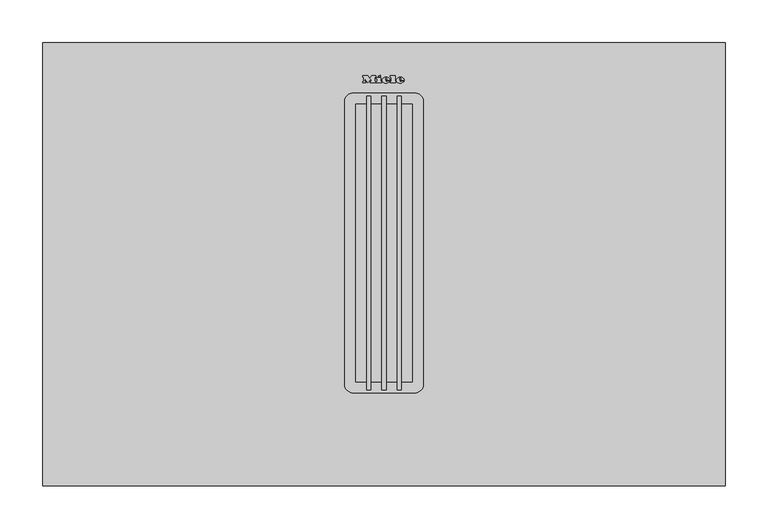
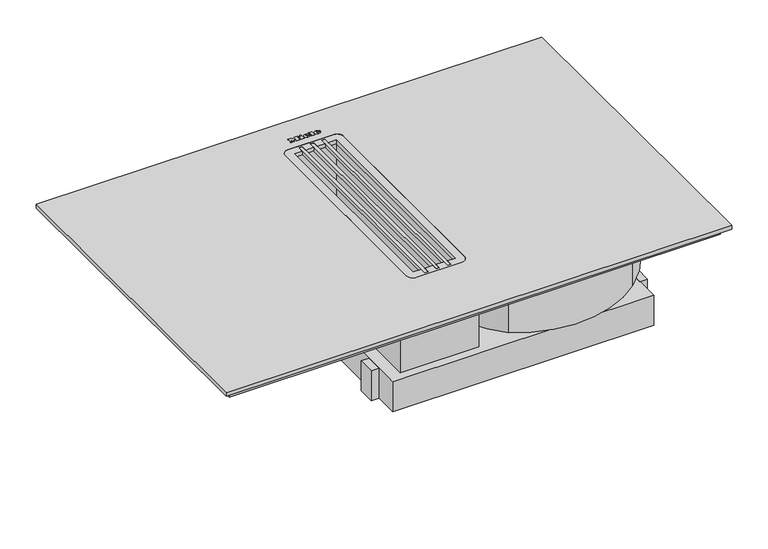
"""IFC4 building model written with IfcOpenShell, lengths in millimetres: proxy geometry, 11798830_ROK_KMDA7476FL : 26747672_ROK_11798830_KMDA7476FL."""

from ifc_helpers import new_model, si_unit, point, frame, frame_2d, origin, origin_with_axes, place, context, project, spatial, polyline, circle_curve, ellipse_curve, trimmed, segment, composite_curve, outline, extrude, faceted_brep, source, transform, mapped, element, save
from ifc_brep_helpers import plane_surface, cylinder_surface, revolved_surface, extruded_surface, advanced_brep


def specialty_equipment_0ed3b5a2(model_context):
    return source(origin(), model_context, "Body", "SolidModel", [
        extrude(outline(polyline([(-51.0, 517.0), (2.0, 517.0), (2.0, 498.0), (-51.0, 498.0), (-51.0, 517.0)])), frame((0.0, 0.0, -129.0), z_axis=(0.0, 0.0, 1.0), x_axis=(1.0, 0.0, 0.0)), (0.0, 0.0, 1.0), 94.0),
        faceted_brep([(-62.0, 462.0, -47.0), (-62.0, 462.0, -141.0), (128.0, 462.0, -141.0), (128.0, 462.0, -47.0), (128.0, 498.0, -47.0), (128.0, 498.0, -141.0), (-62.0, 498.0, -141.0), (-62.0, 498.0, -47.0), (-151.0, 498.0, -47.0), (-151.0, 498.0, -12.0), (151.0, 498.0, -12.0), (151.0, 498.0, -47.0), (128.0, 471.0, -47.0), (-62.0, 471.0, -47.0), (-151.0, 471.0, -12.0), (-151.0, 471.0, -47.0), (151.0, 471.0, -47.0), (151.0, 471.0, -12.0)], [[[0, 1, 2, 3]], [[4, 5, 6, 7, 8, 9, 10, 11]], [[0, 3, 12, 13]], [[3, 2, 5, 4, 12]], [[2, 1, 6, 5]], [[1, 0, 13, 7, 6]], [[14, 15, 13, 12, 16, 17]], [[14, 17, 10, 9]], [[17, 16, 11, 10]], [[11, 16, 12, 4]], [[15, 8, 7, 13]], [[15, 14, 9, 8]]]),
        extrude(outline(polyline([(388.5, 508.5), (388.5, 11.5), (-388.5, 11.5), (-388.5, 508.5), (388.5, 508.5)]), holes=[composite_curve([segment(polyline([(36.0, 461.0), (-36.0, 461.0)]), True, "CONTINUOUS"), segment(trimmed(circle_curve(frame_2d((-36.0, 451.0)), 10.0), [point((-36.0, 461.0))], [point((-46.0, 451.0))], True, "CARTESIAN"), True, "CONTINUOUS"), segment(polyline([(-46.0, 451.0), (-46.0, 119.0)]), True, "CONTINUOUS"), segment(trimmed(circle_curve(frame_2d((-36.0, 119.0)), 10.0), [point((-46.0, 119.0))], [point((-36.0, 109.0))], True, "CARTESIAN"), True, "CONTINUOUS"), segment(polyline([(-36.0, 109.0), (36.0, 109.0)]), True, "CONTINUOUS"), segment(trimmed(circle_curve(frame_2d((36.0, 119.0)), 10.0), [point((36.0, 109.0))], [point((46.0, 119.0))], True, "CARTESIAN"), True, "CONTINUOUS"), segment(polyline([(46.0, 119.0), (46.0, 451.0)]), True, "CONTINUOUS"), segment(trimmed(circle_curve(frame_2d((36.0, 451.0)), 10.0), [point((46.0, 451.0))], [point((36.0, 461.0))], True, "CARTESIAN"), True, "CONTINUOUS")], self_intersect=False)]), frame((0.0, 0.0, -12.0), z_axis=(0.0, 0.0, 1.0), x_axis=(1.0, 0.0, 0.0)), (0.0, 0.0, 1.0), 12.0),
        extrude(outline(polyline([(62.0, 462.0), (62.0, 108.0), (-62.0, 108.0), (-62.0, 462.0), (62.0, 462.0)]), holes=[polyline([(-61.0, 461.0), (-61.0, 109.0), (61.0, 109.0), (61.0, 461.0), (-61.0, 461.0)])]), frame((0.0, 0.0, -144.0), z_axis=(0.0, 0.0, 1.0), x_axis=(1.0, 0.0, 0.0)), (0.0, 0.0, 1.0), 132.0),
        extrude(outline(polyline([(-115.0, 470.0), (-115.0, 442.0), (-75.0, 442.0), (-75.0, 192.0), (-115.0, 192.0), (-115.0, 99.0), (-343.0, 99.0), (-343.0, 470.0), (-115.0, 470.0)])), frame((0.0, 0.0, -44.5), z_axis=(0.0, 0.0, 1.0), x_axis=(1.0, 0.0, 0.0)), (0.0, 0.0, 1.0), 32.5),
        extrude(outline(polyline([(343.0, 470.0), (343.0, 99.0), (115.0, 99.0), (115.0, 470.0), (343.0, 470.0)])), frame((0.0, 0.0, -44.5), z_axis=(0.0, 0.0, 1.0), x_axis=(1.0, 0.0, 0.0)), (0.0, 0.0, 1.0), 32.5),
        extrude(outline(polyline([(-25.1017526, 510.2687484), (-25.1017526, 511.5249913), (-17.8845239, 511.5249913), (-17.8845239, 501.4750087), (-25.1017526, 501.4750087), (-25.1017526, 502.7446501), (-19.1382229, 502.7446501), (-19.1382229, 506.0332257), (-24.7879262, 506.0332257), (-24.7879262, 507.2906905), (-19.1382229, 507.2906905), (-19.1382229, 510.2687484), (-25.1017526, 510.2687484)])), frame((0.0, 0.0, -160.0), z_axis=(0.0, 0.0, 1.0), x_axis=(1.0, 0.0, 0.0)), (0.0, 0.0, 1.0), 1.0),
        extrude(outline(polyline([(-27.1342453, 511.5257742), (-27.1342453, 501.4833659), (-33.4152753, 501.4833659), (-33.4152753, 502.7411815), (-28.4152753, 502.7411815), (-28.4152753, 511.5257742), (-27.1342453, 511.5257742)])), frame((0.0, 0.0, -160.0), z_axis=(0.0, 0.0, 1.0), x_axis=(1.0, 0.0, 0.0)), (0.0, 0.0, 1.0), 1.0),
        extrude(outline(composite_curve([segment(trimmed(circle_curve(frame_2d((-24.5, 506.5)), 7.5), [point((-32.0, 506.5))], [point((-17.0, 506.5))], False, "CARTESIAN"), True, "CONTINUOUS"), segment(trimmed(circle_curve(frame_2d((-24.5, 506.5)), 7.5), [point((-17.0, 506.5))], [point((-32.0, 506.5))], False, "CARTESIAN"), True, "CONTINUOUS")], self_intersect=False)), frame((0.0, 0.0, -159.0), z_axis=(0.0, 0.0, 1.0), x_axis=(1.0, 0.0, 0.0)), (0.0, 0.0, 1.0), 30.0),
        extrude(outline(polyline([(400.0, 520.0), (400.0, 0.0), (-400.0, 0.0), (-400.0, 520.0), (400.0, 520.0)]), holes=[composite_curve([segment(polyline([(36.0, 461.0), (-36.0, 461.0)]), True, "CONTINUOUS"), segment(trimmed(circle_curve(frame_2d((-36.0, 451.0)), 10.0), [point((-36.0, 461.0))], [point((-46.0, 451.0))], True, "CARTESIAN"), True, "CONTINUOUS"), segment(polyline([(-46.0, 451.0), (-46.0, 119.0)]), True, "CONTINUOUS"), segment(trimmed(circle_curve(frame_2d((-36.0, 119.0)), 10.0), [point((-46.0, 119.0))], [point((-36.0, 109.0))], True, "CARTESIAN"), True, "CONTINUOUS"), segment(polyline([(-36.0, 109.0), (36.0, 109.0)]), True, "CONTINUOUS"), segment(trimmed(circle_curve(frame_2d((36.0, 119.0)), 10.0), [point((36.0, 109.0))], [point((46.0, 119.0))], True, "CARTESIAN"), True, "CONTINUOUS"), segment(polyline([(46.0, 119.0), (46.0, 451.0)]), True, "CONTINUOUS"), segment(trimmed(circle_curve(frame_2d((36.0, 451.0)), 10.0), [point((46.0, 451.0))], [point((36.0, 461.0))], True, "CARTESIAN"), True, "CONTINUOUS")], self_intersect=False)]), origin_with_axes(), (0.0, 0.0, 1.0), 6.0),
        extrude(outline(composite_curve([segment(trimmed(circle_curve(frame_2d((196.0, 245.0)), 71.9986338), [point((196.0, 316.9986338))], [point((196.0, 173.0013662))], False, "CARTESIAN"), True, "CONTINUOUS"), segment(trimmed(circle_curve(frame_2d((196.0, 245.0)), 71.9986338), [point((196.0, 173.0013662))], [point((196.0, 316.9986338))], False, "CARTESIAN"), True, "CONTINUOUS")], self_intersect=False)), frame((0.0, 0.0, -74.0), z_axis=(0.0, 0.0, 1.0), x_axis=(1.0, 0.0, 0.0)), (0.0, 0.0, 1.0), 24.0),
        extrude(outline(polyline([(343.0, 159.0), (343.0, 132.0), (331.0, 132.0), (331.0, 159.0), (343.0, 159.0)])), frame((0.0, 0.0, -194.0), z_axis=(0.0, 0.0, 1.0), x_axis=(1.0, 0.0, 0.0)), (0.0, 0.0, 1.0), 50.0),
        extrude(outline(polyline([(343.0, 299.0), (343.0, 272.0), (331.0, 272.0), (331.0, 299.0), (343.0, 299.0)])), frame((0.0, 0.0, -194.0), z_axis=(0.0, 0.0, 1.0), x_axis=(1.0, 0.0, 0.0)), (0.0, 0.0, 1.0), 50.0),
        extrude(outline(polyline([(-94.0, 132.0), (-94.0, 159.0), (-82.0, 159.0), (-82.0, 132.0), (-94.0, 132.0)])), frame((0.0, 0.0, -194.0), z_axis=(0.0, 0.0, 1.0), x_axis=(1.0, 0.0, 0.0)), (0.0, 0.0, 1.0), 50.0),
        extrude(outline(polyline([(-94.0, 412.0), (-94.0, 439.0), (-82.0, 439.0), (-82.0, 412.0), (-94.0, 412.0)])), frame((0.0, 0.0, -194.0), z_axis=(0.0, 0.0, 1.0), x_axis=(1.0, 0.0, 0.0)), (0.0, 0.0, 1.0), 50.0),
        extrude(outline(composite_curve([segment(trimmed(circle_curve(frame_2d((196.0, 245.0)), 72.0), [point((196.0, 317.0))], [point((196.0, 173.0))], False, "CARTESIAN"), True, "CONTINUOUS"), segment(trimmed(circle_curve(frame_2d((196.0, 245.0)), 72.0), [point((196.0, 173.0))], [point((196.0, 317.0))], False, "CARTESIAN"), True, "CONTINUOUS")], self_intersect=False)), frame((0.0, 0.0, -74.0), z_axis=(0.0, 0.0, 1.0), x_axis=(1.0, 0.0, 0.0)), (0.0, 0.0, 1.0), 24.0),
        advanced_brep(
        [(362.0, 410.0, -54.0), (143.0, 410.0, -54.0), (143.0, 358.416101, -54.0), (362.0, 358.416101, -54.0), (362.0, 410.0, -144.0), (362.0, 348.2375968, -144.0), (381.237223, 285.0, -144.0), (318.5220822, 129.2089937, -144.0), (114.432033, 116.6773214, -144.0), (74.0661338, 285.0, -144.0), (143.0, 355.5833055, -144.0), (143.0, 410.0, -144.0), (362.0, 348.2375968, -56.7728261), (74.0661338, 285.0, -74.0), (143.0, 355.5833055, -54.7717096), (358.0, 410.0, -58.5), (146.0, 410.0, -58.5), (146.0, 410.0, -139.5), (358.0, 410.0, -139.5), (136.1334818, 285.0, -74.0), (196.0, 317.0, -65.2825662), (255.8665182, 285.0, -74.0), (381.237223, 285.0, -74.0), (318.5220822, 129.2089937, -74.0), (114.432033, 116.6773214, -74.0), (146.0, 358.416101, -58.5), (358.0, 358.416101, -58.5), (358.0, 358.416101, -139.5), (146.0, 358.416101, -139.5), (196.0, 317.0, -74.0)],
        [
            (0, 1),
            (1, 2),
            (2, 3),
            (3, 0),
            (4, 5),
            (5, 6, circle_curve(frame((204.2850014, 265.7149986, -144.0), z_axis=(0.0, 0.0, -1.0), x_axis=(0.0, -1.0, 0.0)), 178.0)),
            (6, 7, circle_curve(frame((204.2850014, 265.7149986, -144.0), z_axis=(0.0, 0.0, -1.0), x_axis=(0.0, -1.0, 0.0)), 178.0)),
            (7, 8, circle_curve(frame((208.0, 261.0, -144.0), z_axis=(0.0, 0.0, -1.0), x_axis=(0.0, -1.0, 0.0)), 172.0)),
            (8, 9, circle_curve(frame((211.159576, 228.8752699, -144.0), z_axis=(0.0, 0.0, -1.0), x_axis=(0.0, -1.0, 0.0)), 148.1370893)),
            (9, 10, circle_curve(frame((199.9612769, 231.0, -144.0), z_axis=(0.0, 0.0, -1.0), x_axis=(0.0, -1.0, 0.0)), 136.9875435)),
            (10, 11),
            (11, 4),
            (4, 0),
            (3, 12),
            (12, 5),
            (9, 13),
            (13, 14, ellipse_curve(frame((199.9612769, 231.0, -88.7106695), z_axis=(0.0, 0.26284127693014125, -0.9648390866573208), x_axis=(0.0, -0.9648390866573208, -0.26284127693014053)), 141.9796787, 136.9875435)),
            (14, 10),
            (14, 2),
            (1, 11),
            (15, 16),
            (16, 17),
            (17, 18),
            (18, 15),
            (13, 19),
            (19, 20, ellipse_curve(frame((196.0, 245.0, -84.8967922), z_axis=(0.0, 0.26284127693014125, -0.9648390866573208), x_axis=(0.0, -0.9648390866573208, -0.26284127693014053)), 74.6238425, 72.0)),
            (20, 21, ellipse_curve(frame((196.0, 245.0, -84.8967922), z_axis=(0.0, 0.26284127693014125, -0.9648390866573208), x_axis=(0.0, -0.9648390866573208, -0.26284127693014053)), 74.6238425, 72.0)),
            (21, 22),
            (22, 12, ellipse_curve(frame((204.2850014, 265.7149986, -79.2536163), z_axis=(0.0, -0.26284127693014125, 0.9648390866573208), x_axis=(0.0, -0.9648390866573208, -0.26284127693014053)), 184.4867216, 178.0)),
            (7, 23),
            (23, 24, circle_curve(frame((208.0, 261.0, -74.0), z_axis=(0.0, 0.0, -1.0), x_axis=(0.0, -1.0, 0.0)), 172.0)),
            (24, 8),
            (24, 13, circle_curve(frame((211.159576, 228.8752699, -74.0), z_axis=(0.0, 0.0, -1.0), x_axis=(0.0, -1.0, 0.0)), 148.1370893)),
            (6, 22),
            (22, 23, circle_curve(frame((204.2850014, 265.7149986, -74.0), z_axis=(0.0, 0.0, -1.0), x_axis=(0.0, -1.0, 0.0)), 178.0)),
            (25, 26),
            (26, 27),
            (27, 28),
            (28, 25),
            (25, 16),
            (15, 26),
            (18, 27),
            (17, 28),
            (21, 29, circle_curve(frame((196.0, 245.0, -74.0), z_axis=(0.0, 0.0, 1.0), x_axis=(0.0, -1.0, 0.0)), 72.0)),
            (29, 19, circle_curve(frame((196.0, 245.0, -74.0), z_axis=(0.0, 0.0, 1.0), x_axis=(0.0, -1.0, 0.0)), 72.0)),
            (20, 29),
        ],
        [
            plane_surface(frame((362.0, 410.0, -54.0), z_axis=(0.0, 0.0, 1.0), x_axis=(0.0, 1.0, 0.0))),
            plane_surface(frame((362.0, 410.0, -144.0), z_axis=(0.0, 0.0, -1.0), x_axis=(0.0, -1.0, 0.0))),
            plane_surface(frame((362.0, 410.0, -144.0), z_axis=(1.0, 0.0, 0.0), x_axis=(0.0, 0.0, 1.0))),
            cylinder_surface(frame((199.9612769, 231.0, -54.0), z_axis=(0.0, 0.0, -1.0), x_axis=(0.0, -1.0, 0.0)), 136.9875435),
            plane_surface(frame((143.0, 355.5833055, -144.0), z_axis=(-1.0, 0.0, 0.0), x_axis=(0.0, 0.0, 1.0))),
            plane_surface(frame((143.0, 410.0, -144.0), z_axis=(0.0, 1.0, 0.0), x_axis=(0.0, 0.0, 1.0))),
            plane_surface(frame((-37.9480961, 358.416101, -54.0), z_axis=(0.0, -0.26284127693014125, 0.9648390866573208), x_axis=(1.0, 0.0, 0.0))),
            cylinder_surface(frame((208.0, 261.0, -74.0), z_axis=(0.0, 0.0, -1.0), x_axis=(0.0, -1.0, 0.0)), 172.0),
            cylinder_surface(frame((211.159576, 228.8752699, -74.0), z_axis=(0.0, 0.0, -1.0), x_axis=(0.0, -1.0, 0.0)), 148.1370893),
            cylinder_surface(frame((204.2850014, 265.7149986, -74.0), z_axis=(0.0, 0.0, -1.0), x_axis=(0.0, -1.0, 0.0)), 178.0),
            plane_surface(frame((358.0, 358.416101, -58.5), z_axis=(0.0, 1.0, 0.0), x_axis=(-1.0, 0.0, 0.0))),
            plane_surface(frame((146.0, 410.0, -58.5), z_axis=(0.0, 0.0, -1.0), x_axis=(0.0, -1.0, 0.0))),
            plane_surface(frame((358.0, 410.0, -58.5), z_axis=(-1.0, 0.0, 0.0), x_axis=(0.0, -1.0, 0.0))),
            plane_surface(frame((358.0, 410.0, -139.5), z_axis=(0.0, 0.0, 1.0), x_axis=(0.0, -1.0, 0.0))),
            plane_surface(frame((146.0, 410.0, -139.5), z_axis=(1.0, 0.0, 0.0), x_axis=(0.0, -1.0, 0.0))),
            cylinder_surface(frame((204.2850014, 265.7149986, -54.0), z_axis=(0.0, 0.0, -1.0), x_axis=(0.0, -1.0, 0.0)), 178.0),
            plane_surface(frame((196.0, 173.0, -74.0), z_axis=(0.0, 0.0, 1.0), x_axis=(-1.0, 0.0, 0.0))),
            revolved_surface(polyline([(196.0, 173.0, -104.51101825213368), (196.0, 173.0, -65.2825661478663)]), (196.0, 245.0, -59.0), (0.0, 0.0, -1.0)),
        ],
        [
            (0, [[1, 2, 3, 4]]),
            (1, [[5, 6, 7, 8, 9, 10, 11, 12]]),
            (2, [[-5, 13, -4, 14, 15]]),
            (3, [[-10, 16, 17, 18]]),
            (4, [[-11, -18, 19, -2, 20]]),
            (5, [[-1, -13, -12, -20], [21, 22, 23, 24]]),
            (6, [[-3, -19, -17, 25, 26, 27, 28, 29, -14]]),
            (7, [[-8, 30, 31, 32]]),
            (8, [[-9, -32, 33, -16]]),
            (9, [[-7, 34, 35, -30]]),
            (10, [[36, 37, 38, 39]]),
            (11, [[-36, 40, -21, 41]]),
            (12, [[-37, -41, -24, 42]]),
            (13, [[-38, -42, -23, 43]]),
            (14, [[-39, -43, -22, -40]]),
            (15, [[-6, -15, -29, -34]]),
            (16, [[44, 45, -25, -33, -31, -35, -28]]),
            (17, [[-44, -27, 46]]),
            (17, [[-45, -46, -26]]),
        ],
    ),
        extrude(outline(composite_curve([segment(trimmed(circle_curve(frame_2d((-36.0, 451.0)), 10.0), [point((-46.0, 451.0))], [point((-36.0, 461.0))], False, "CARTESIAN"), True, "CONTINUOUS"), segment(polyline([(-36.0, 461.0), (36.0, 461.0)]), True, "CONTINUOUS"), segment(trimmed(circle_curve(frame_2d((36.0, 451.0)), 10.0), [point((36.0, 461.0))], [point((46.0, 451.0))], False, "CARTESIAN"), True, "CONTINUOUS"), segment(polyline([(46.0, 451.0), (46.0, 119.0)]), True, "CONTINUOUS"), segment(trimmed(circle_curve(frame_2d((36.0, 119.0)), 10.0), [point((46.0, 119.0))], [point((36.0, 109.0))], False, "CARTESIAN"), True, "CONTINUOUS"), segment(polyline([(36.0, 109.0), (-36.0, 109.0)]), True, "CONTINUOUS"), segment(trimmed(circle_curve(frame_2d((-36.0, 119.0)), 10.0), [point((-36.0, 109.0))], [point((-46.0, 119.0))], False, "CARTESIAN"), True, "CONTINUOUS"), segment(polyline([(-46.0, 119.0), (-46.0, 451.0)]), True, "CONTINUOUS")], self_intersect=False), holes=[polyline([(-33.0, 448.0), (-33.0, 122.0), (-20.5, 122.0), (-20.5, 112.5), (-15.5, 112.5), (-15.5, 122.0), (-2.5, 122.0), (-2.5, 112.5), (2.5, 112.5), (2.5, 122.0), (15.4810503, 122.0), (15.4810503, 112.5), (20.4810503, 112.5), (20.4810503, 122.0), (33.0, 122.0), (33.0, 448.0), (20.4810503, 448.0), (20.4810503, 457.5), (15.4810503, 457.5), (15.4810503, 448.0), (2.5, 448.0), (2.5, 457.5), (-2.5, 457.5), (-2.5, 448.0), (-15.5, 448.0), (-15.5, 457.5), (-20.5, 457.5), (-20.5, 448.0), (-33.0, 448.0)])]), origin_with_axes(), (0.0, 0.0, 1.0), 6.0),
        extrude(outline(polyline([(2.5, 457.5), (2.5, 112.5), (-2.5, 112.5), (-2.5, 457.5), (2.5, 457.5)])), origin_with_axes(), (0.0, 0.0, 1.0), 6.0),
        extrude(outline(polyline([(-15.5, 457.5), (-15.5, 112.5), (-20.5, 112.5), (-20.5, 457.5), (-15.5, 457.5)])), origin_with_axes(), (0.0, 0.0, 1.0), 6.0),
        extrude(outline(polyline([(20.4810503, 457.5), (20.4810503, 112.5), (15.4810503, 112.5), (15.4810503, 457.5), (20.4810503, 457.5)])), origin_with_axes(), (0.0, 0.0, 1.0), 6.0),
        extrude(outline(composite_curve([segment(trimmed(circle_curve(frame_2d((-34.0, 449.5)), 8.0), [point((-42.0, 449.5))], [point((-34.0, 457.5))], False, "CARTESIAN"), True, "CONTINUOUS"), segment(polyline([(-34.0, 457.5), (34.0, 457.5)]), True, "CONTINUOUS"), segment(trimmed(circle_curve(frame_2d((34.0, 449.5)), 8.0), [point((34.0, 457.5))], [point((42.0, 449.5))], False, "CARTESIAN"), True, "CONTINUOUS"), segment(polyline([(42.0, 449.5), (42.0, 120.5)]), True, "CONTINUOUS"), segment(trimmed(circle_curve(frame_2d((34.0, 120.5)), 8.0), [point((42.0, 120.5))], [point((34.0, 112.5))], False, "CARTESIAN"), True, "CONTINUOUS"), segment(polyline([(34.0, 112.5), (-34.0, 112.5)]), True, "CONTINUOUS"), segment(trimmed(circle_curve(frame_2d((-34.0, 120.5)), 8.0), [point((-34.0, 112.5))], [point((-42.0, 120.5))], False, "CARTESIAN"), True, "CONTINUOUS"), segment(polyline([(-42.0, 120.5), (-42.0, 449.5)]), True, "CONTINUOUS")], self_intersect=False), holes=[polyline([(-34.0, 449.5), (-34.0, 120.5), (34.0, 120.5), (34.0, 449.5), (-34.0, 449.5)])]), frame((0.0, 0.0, -144.0), z_axis=(0.0, 0.0, 1.0), x_axis=(1.0, 0.0, 0.0)), (0.0, 0.0, 1.0), 144.0),
        extrude(outline(polyline([(-82.0, 94.0), (-82.0, 477.0), (62.0, 477.0), (331.0, 337.0), (331.0, 94.0), (-82.0, 94.0)])), frame((0.0, 0.0, -194.0), z_axis=(0.0, 0.0, 1.0), x_axis=(1.0, 0.0, 0.0)), (0.0, 0.0, 1.0), 50.0),
        advanced_brep(
        [(18.456, 474.896, 7.0), (18.456, 475.704, 7.0), (23.808, 475.704, 7.0), (14.496, 475.704, 7.0), (16.696, 473.0, 7.0), (23.672, 474.896, 7.0), (21.256, 474.896, 7.0), (19.352, 474.0, 7.0), (18.456, 476.728, 7.0), (18.456, 477.6, 7.0), (19.824, 477.6, 7.0), (19.824, 476.728, 7.0), (18.456, 474.896, 6.0), (19.352, 474.0, 6.0), (21.256, 474.896, 6.0), (23.672, 474.896, 6.0), (16.696, 473.0, 6.0), (14.496, 475.704, 6.0), (23.808, 475.704, 6.0), (18.456, 475.704, 6.0), (18.456, 476.728, 6.0), (19.824, 476.728, 6.0), (19.824, 477.6, 6.0), (18.456, 477.6, 6.0)],
        [
            (0, 1),
            (1, 2),
            (2, 3, ellipse_curve(frame((19.152, 475.704, 7.0), z_axis=(0.0, 0.0, 1.0), x_axis=(-1.0, 0.0, 0.0)), 4.656, 3.848)),
            (3, 4, circle_curve(frame((17.5920436, 475.976, 7.0), z_axis=(0.0, 0.0, 1.0), x_axis=(0.0, -1.0, 0.0)), 3.1079688)),
            (4, 5, circle_curve(frame((19.0587936, 478.088, 7.0), z_axis=(0.0, 0.0, 1.0), x_axis=(0.0, -1.0, 0.0)), 5.6098607)),
            (5, 6),
            (6, 7, circle_curve(frame((19.7430588, 475.64, 7.0), z_axis=(0.0, 0.0, -1.0), x_axis=(0.0, -1.0, 0.0)), 1.6859795)),
            (7, 0, circle_curve(frame((19.352, 474.896, 7.0), z_axis=(0.0, 0.0, -1.0), x_axis=(0.0, -1.0, 0.0)), 0.896)),
            (8, 9),
            (9, 10, circle_curve(frame((19.14, 477.6, 7.0), z_axis=(0.0, 0.0, -1.0), x_axis=(0.0, -1.0, 0.0)), 0.684)),
            (10, 11),
            (11, 8),
            (12, 13, circle_curve(frame((19.352, 474.896, 6.0), z_axis=(0.0, 0.0, 1.0), x_axis=(0.0, -1.0, 0.0)), 0.896)),
            (13, 14, circle_curve(frame((19.7430588, 475.64, 6.0), z_axis=(0.0, 0.0, 1.0), x_axis=(0.0, -1.0, 0.0)), 1.6859795)),
            (14, 15),
            (15, 16, circle_curve(frame((19.0587936, 478.088, 6.0), z_axis=(0.0, 0.0, -1.0), x_axis=(0.0, -1.0, 0.0)), 5.6098607)),
            (16, 17, circle_curve(frame((17.5920436, 475.976, 6.0), z_axis=(0.0, 0.0, -1.0), x_axis=(0.0, -1.0, 0.0)), 3.1079688)),
            (17, 18, ellipse_curve(frame((19.152, 475.704, 6.0), z_axis=(0.0, 0.0, -1.0), x_axis=(-1.0, 0.0, 0.0)), 4.656, 3.848)),
            (18, 19),
            (19, 12),
            (20, 21),
            (21, 22),
            (22, 23, circle_curve(frame((19.14, 477.6, 6.0), z_axis=(0.0, 0.0, 1.0), x_axis=(0.0, -1.0, 0.0)), 0.684)),
            (23, 20),
            (0, 12),
            (19, 1),
            (18, 2),
            (5, 15),
            (14, 6),
            (17, 3),
            (13, 7),
            (16, 4),
            (8, 20),
            (23, 9),
            (22, 10),
            (21, 11),
        ],
        [
            plane_surface(frame((18.456, 475.704, 7.0), z_axis=(0.0, 0.0, 1.0), x_axis=(0.0, 1.0, 0.0))),
            plane_surface(frame((18.456, 475.704, 6.0), z_axis=(0.0, 0.0, -1.0), x_axis=(0.0, -1.0, 0.0))),
            plane_surface(frame((18.456, 474.896, 7.0), z_axis=(1.0, 0.0, 0.0), x_axis=(0.0, 0.0, -1.0))),
            plane_surface(frame((18.456, 475.704, 7.0), z_axis=(0.0, -1.0, 0.0), x_axis=(0.0, 0.0, -1.0))),
            plane_surface(frame((23.672, 474.896, 7.0), z_axis=(0.0, 1.0, 0.0), x_axis=(0.0, 0.0, -1.0))),
            extruded_surface(trimmed(ellipse_curve(frame((19.152, 475.704, 5.0), z_axis=(0.0, 0.0, 1.0), x_axis=(-1.0, 0.0, 0.0)), 4.656, 3.848), [point((23.808, 475.704, 5.0))], [point((14.496, 475.704, 5.0))], True, "CARTESIAN"), (0.0, 0.0, 1.0), 1.0),
            revolved_surface(polyline([(19.7430588, 473.9540205, 6.0), (19.7430588, 473.9540205, 7.0)]), (19.7430588, 475.64, 6.0), (0.0, 0.0, -1.0)),
            revolved_surface(polyline([(19.352, 474.0, 6.0), (19.352, 474.0, 7.0)]), (19.352, 474.896, 6.0), (0.0, 0.0, -1.0)),
            cylinder_surface(frame((17.5920436, 475.976, 6.0), z_axis=(0.0, 0.0, 1.0), x_axis=(0.0, -1.0, 0.0)), 3.1079688),
            cylinder_surface(frame((19.0587936, 478.088, 6.0), z_axis=(0.0, 0.0, 1.0), x_axis=(0.0, -1.0, 0.0)), 5.6098607),
            plane_surface(frame((18.456, 476.728, 7.0), z_axis=(1.0, 0.0, 0.0), x_axis=(0.0, 0.0, -1.0))),
            revolved_surface(polyline([(19.14, 476.916, 6.0), (19.14, 476.916, 7.0)]), (19.14, 477.6, 6.0), (0.0, 0.0, -1.0)),
            plane_surface(frame((19.824, 477.6, 7.0), z_axis=(-1.0, 0.0, 0.0), x_axis=(0.0, 0.0, -1.0))),
            plane_surface(frame((19.824, 476.728, 7.0), z_axis=(0.0, 1.0, 0.0), x_axis=(0.0, 0.0, -1.0))),
        ],
        [
            (0, [[1, 2, 3, 4, 5, 6, 7, 8], [9, 10, 11, 12]]),
            (1, [[13, 14, 15, 16, 17, 18, 19, 20], [21, 22, 23, 24]]),
            (2, [[-1, 25, -20, 26]]),
            (3, [[-2, -26, -19, 27]]),
            (4, [[-6, 28, -15, 29]]),
            (5, [[-3, -27, -18, 30]]),
            (6, [[-7, -29, -14, 31]]),
            (7, [[-8, -31, -13, -25]]),
            (8, [[-4, -30, -17, 32]]),
            (9, [[-5, -32, -16, -28]]),
            (10, [[-9, 33, -24, 34]]),
            (11, [[-10, -34, -23, 35]]),
            (12, [[-11, -35, -22, 36]]),
            (13, [[-12, -36, -21, -33]]),
        ],
    ),
        advanced_brep(
        [(1.76, 474.896, 7.0), (1.76, 475.704, 7.0), (7.112, 475.704, 7.0), (-2.2, 475.704, 7.0), (0.0, 473.0, 7.0), (6.976, 474.896, 7.0), (4.56, 474.896, 7.0), (2.656, 474.0, 7.0), (1.76, 476.728, 7.0), (1.76, 477.6, 7.0), (3.128, 477.6, 7.0), (3.128, 476.728, 7.0), (1.76, 474.896, 6.0), (2.656, 474.0, 6.0), (4.56, 474.896, 6.0), (6.976, 474.896, 6.0), (0.0, 473.0, 6.0), (-2.2, 475.704, 6.0), (7.112, 475.704, 6.0), (1.76, 475.704, 6.0), (1.76, 476.728, 6.0), (3.128, 476.728, 6.0), (3.128, 477.6, 6.0), (1.76, 477.6, 6.0)],
        [
            (0, 1),
            (1, 2),
            (2, 3, ellipse_curve(frame((2.456, 475.704, 7.0), z_axis=(0.0, 0.0, 1.0), x_axis=(-1.0, 0.0, 0.0)), 4.656, 3.848)),
            (3, 4, circle_curve(frame((0.8960436, 475.976, 7.0), z_axis=(0.0, 0.0, 1.0), x_axis=(0.0, -1.0, 0.0)), 3.1079688)),
            (4, 5, circle_curve(frame((2.3627936, 478.088, 7.0), z_axis=(0.0, 0.0, 1.0), x_axis=(0.0, -1.0, 0.0)), 5.6098607)),
            (5, 6),
            (6, 7, circle_curve(frame((3.0470588, 475.64, 7.0), z_axis=(0.0, 0.0, -1.0), x_axis=(0.0, -1.0, 0.0)), 1.6859795)),
            (7, 0, circle_curve(frame((2.656, 474.896, 7.0), z_axis=(0.0, 0.0, -1.0), x_axis=(0.0, -1.0, 0.0)), 0.896)),
            (8, 9),
            (9, 10, circle_curve(frame((2.444, 477.6, 7.0), z_axis=(0.0, 0.0, -1.0), x_axis=(0.0, -1.0, 0.0)), 0.684)),
            (10, 11),
            (11, 8),
            (12, 13, circle_curve(frame((2.656, 474.896, 6.0), z_axis=(0.0, 0.0, 1.0), x_axis=(0.0, -1.0, 0.0)), 0.896)),
            (13, 14, circle_curve(frame((3.0470588, 475.64, 6.0), z_axis=(0.0, 0.0, 1.0), x_axis=(0.0, -1.0, 0.0)), 1.6859795)),
            (14, 15),
            (15, 16, circle_curve(frame((2.3627936, 478.088, 6.0), z_axis=(0.0, 0.0, -1.0), x_axis=(0.0, -1.0, 0.0)), 5.6098607)),
            (16, 17, circle_curve(frame((0.8960436, 475.976, 6.0), z_axis=(0.0, 0.0, -1.0), x_axis=(0.0, -1.0, 0.0)), 3.1079688)),
            (17, 18, ellipse_curve(frame((2.456, 475.704, 6.0), z_axis=(0.0, 0.0, -1.0), x_axis=(-1.0, 0.0, 0.0)), 4.656, 3.848)),
            (18, 19),
            (19, 12),
            (20, 21),
            (21, 22),
            (22, 23, circle_curve(frame((2.444, 477.6, 6.0), z_axis=(0.0, 0.0, 1.0), x_axis=(0.0, -1.0, 0.0)), 0.684)),
            (23, 20),
            (0, 12),
            (19, 1),
            (18, 2),
            (5, 15),
            (14, 6),
            (17, 3),
            (13, 7),
            (16, 4),
            (8, 20),
            (23, 9),
            (22, 10),
            (21, 11),
        ],
        [
            plane_surface(frame((1.76, 475.704, 7.0), z_axis=(0.0, 0.0, 1.0), x_axis=(0.0, 1.0, 0.0))),
            plane_surface(frame((1.76, 475.704, 6.0), z_axis=(0.0, 0.0, -1.0), x_axis=(0.0, -1.0, 0.0))),
            plane_surface(frame((1.76, 474.896, 7.0), z_axis=(1.0, 0.0, 0.0), x_axis=(0.0, 0.0, -1.0))),
            plane_surface(frame((1.76, 475.704, 7.0), z_axis=(0.0, -1.0, 0.0), x_axis=(0.0, 0.0, -1.0))),
            plane_surface(frame((6.976, 474.896, 7.0), z_axis=(0.0, 1.0, 0.0), x_axis=(0.0, 0.0, -1.0))),
            extruded_surface(trimmed(ellipse_curve(frame((2.456, 475.704, 5.0), z_axis=(0.0, 0.0, 1.0), x_axis=(-1.0, 0.0, 0.0)), 4.656, 3.848), [point((7.112, 475.704, 5.0))], [point((-2.2, 475.704, 5.0))], True, "CARTESIAN"), (0.0, 0.0, 1.0), 1.0),
            revolved_surface(polyline([(3.0470588, 473.9540205, 6.0), (3.0470588, 473.9540205, 7.0)]), (3.0470588, 475.64, 6.0), (0.0, 0.0, -1.0)),
            revolved_surface(polyline([(2.656, 474.0, 6.0), (2.656, 474.0, 7.0)]), (2.656, 474.896, 6.0), (0.0, 0.0, -1.0)),
            cylinder_surface(frame((0.8960436, 475.976, 6.0), z_axis=(0.0, 0.0, 1.0), x_axis=(0.0, -1.0, 0.0)), 3.1079688),
            cylinder_surface(frame((2.3627936, 478.088, 6.0), z_axis=(0.0, 0.0, 1.0), x_axis=(0.0, -1.0, 0.0)), 5.6098607),
            plane_surface(frame((1.76, 476.728, 7.0), z_axis=(1.0, 0.0, 0.0), x_axis=(0.0, 0.0, -1.0))),
            revolved_surface(polyline([(2.444, 476.916, 6.0), (2.444, 476.916, 7.0)]), (2.444, 477.6, 6.0), (0.0, 0.0, -1.0)),
            plane_surface(frame((3.128, 477.6, 7.0), z_axis=(-1.0, 0.0, 0.0), x_axis=(0.0, 0.0, -1.0))),
            plane_surface(frame((3.128, 476.728, 7.0), z_axis=(0.0, 1.0, 0.0), x_axis=(0.0, 0.0, -1.0))),
        ],
        [
            (0, [[1, 2, 3, 4, 5, 6, 7, 8], [9, 10, 11, 12]]),
            (1, [[13, 14, 15, 16, 17, 18, 19, 20], [21, 22, 23, 24]]),
            (2, [[-1, 25, -20, 26]]),
            (3, [[-2, -26, -19, 27]]),
            (4, [[-6, 28, -15, 29]]),
            (5, [[-3, -27, -18, 30]]),
            (6, [[-7, -29, -14, 31]]),
            (7, [[-8, -31, -13, -25]]),
            (8, [[-4, -30, -17, 32]]),
            (9, [[-5, -32, -16, -28]]),
            (10, [[-9, 33, -24, 34]]),
            (11, [[-10, -34, -23, 35]]),
            (12, [[-11, -35, -22, 36]]),
            (13, [[-12, -36, -21, -33]]),
        ],
    ),
        extrude(outline(polyline([(-6.984, 480.528), (-4.264, 481.792), (-3.664, 480.496), (-6.376, 479.232), (-6.984, 480.528)])), frame((0.0, 0.0, 6.0), z_axis=(0.0, 0.0, 1.0), x_axis=(1.0, 0.0, 0.0)), (0.0, 0.0, 1.0), 1.0),
        extrude(outline(polyline([(-8.96, 479.056), (-3.576, 479.056), (-3.576, 474.344), (-2.648, 474.344), (-2.648, 473.0), (-8.96, 473.0), (-8.96, 474.344), (-8.008, 474.344), (-8.008, 477.624), (-8.96, 477.624), (-8.96, 479.056)])), frame((0.0, 0.0, 6.0), z_axis=(0.0, 0.0, 1.0), x_axis=(1.0, 0.0, 0.0)), (0.0, 0.0, 1.0), 1.0),
        extrude(outline(polyline([(7.56, 479.696), (7.56, 481.0), (13.064, 481.0), (13.064, 474.344), (14.048, 474.344), (14.048, 473.0), (7.56, 473.0), (7.56, 474.344), (8.52, 474.344), (8.52, 479.696), (7.56, 479.696)])), frame((0.0, 0.0, 6.0), z_axis=(0.0, 0.0, 1.0), x_axis=(1.0, 0.0, 0.0)), (0.0, 0.0, 1.0), 1.0),
        extrude(outline(polyline([(-24.904, 479.696), (-24.904, 481.0), (-19.328, 481.0), (-16.984, 478.0), (-14.648, 481.0), (-9.776, 481.0), (-9.776, 479.696), (-10.792, 479.696), (-10.792, 474.344), (-9.776, 474.344), (-9.776, 473.0), (-16.16, 473.0), (-16.16, 474.344), (-15.176, 474.344), (-15.176, 477.8152223), (-18.768, 473.0), (-22.344, 477.7471247), (-22.344, 474.344), (-21.384, 474.344), (-21.384, 473.0), (-24.904, 473.0), (-24.904, 474.344), (-23.936, 474.344), (-23.936, 479.696), (-24.904, 479.696)])), frame((0.0, 0.0, 6.0), z_axis=(0.0, 0.0, 1.0), x_axis=(1.0, 0.0, 0.0)), (0.0, 0.0, 1.0), 1.0),
    ])


if __name__ == "__main__":
    model = new_model("IFC4")
    model_context = context("Model", 3, world=origin())
    ifc_project = project(units=[si_unit("LENGTHUNIT", "METRE", prefix="MILLI")], contexts=[model_context])
    site = spatial("IfcSite", under=ifc_project)
    building = spatial("IfcBuilding", under=site)
    placement = place(None, origin())
    specialty_equipment_shape = specialty_equipment_0ed3b5a2(model_context)
    element("IfcBuildingElementProxy", 1, Name="11798830_ROK_KMDA7476FL : 26747672_ROK_11798830_KMDA7476FL", ObjectType="11798830_ROK_KMDA7476FL : 26747672_ROK_11798830_KMDA7476FL", at=placement, inside=building, context=model_context, shape_type="MappedRepresentation", body=[
        mapped(specialty_equipment_shape, transform((0.0, 0.0, 0.0), x_axis=(1.0, 0.0, 0.0), y_axis=(0.0, 1.0, 0.0), z_axis=(0.0, 0.0, 1.0))),
    ])
    save(model, "model.ifc")
